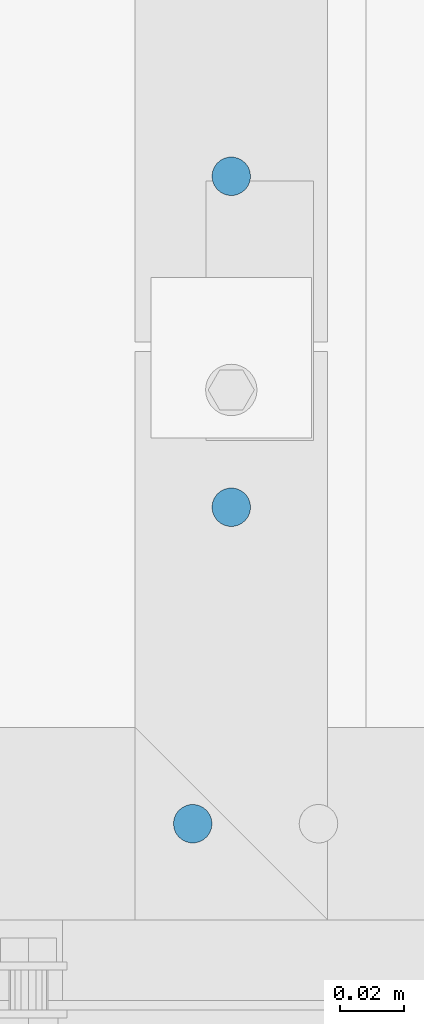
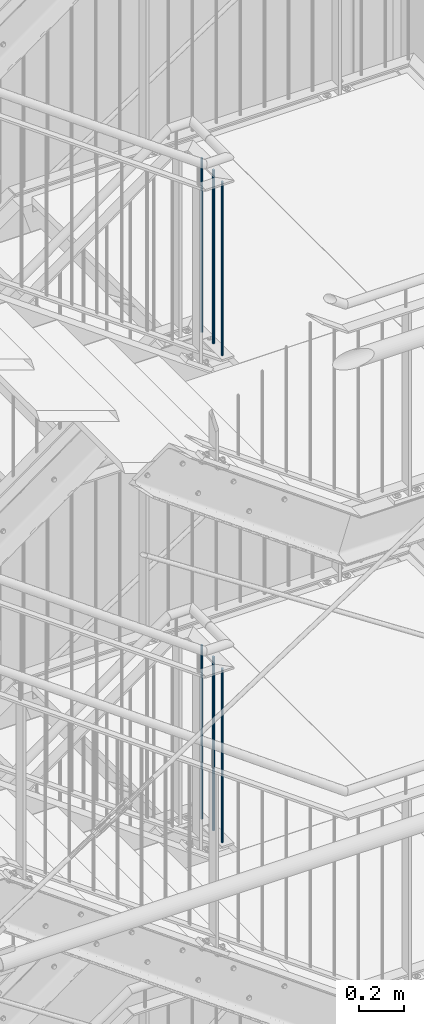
# One storey, part 62 of 831: 6 columns.
"""IFC2X3 building model written with IfcOpenShell, lengths in millimetres."""

from ifc_helpers import new_model, entity, si_unit, converted_unit, frame, origin, origin_with_axes, origin_2d, place, context, project, spatial, circle, extrude, material, element, save


model = new_model("IFC2X3")

# Units and contexts
model_context = context("Model", 3, precision=1e-09, world=origin_with_axes())
ifc_project = project(units=[si_unit("LENGTHUNIT", "METRE", prefix="MILLI"), si_unit("AREAUNIT", "SQUARE_METRE"), si_unit("VOLUMEUNIT", "CUBIC_METRE"), converted_unit("PLANEANGLEUNIT", "DEGREE", entity("IfcPlaneAngleMeasure", 0.01745329), si_unit("PLANEANGLEUNIT", "RADIAN"), dimensions=[0, 0, 0, 0, 0, 0, 0])], contexts=[model_context])

# Site, building, storey
site_placement = place(None, origin_with_axes())
site = spatial("IfcSite", under=ifc_project, at=site_placement, Name="Site", CompositionType="ELEMENT")
building_placement = place(site_placement, origin_with_axes())
building = spatial("IfcBuilding", under=site, at=building_placement, Name="Struktur 1", CompositionType="ELEMENT")
storey_placement = place(building_placement, origin_with_axes())
storey = spatial("IfcBuildingStorey", under=building, at=storey_placement, Name="Default Storey", CompositionType="ELEMENT", Elevation=0.0)

# Columns
ifc_material = material(Name="S235JR")
for number, where, z_axis, x_axis, name in (
    (1, (7152.822212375, 5791.736971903, 12274.3000003), (0.0, 0.0, 1.0), (-1.0, 0.0, 0.0), "Railing_Picket_Stair#0"),
    (2, (7164.822212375, 5890.236971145, 12274.3000003), (0.0, 0.0, 1.0), (-1.0, 0.0, 0.0), "Railing_Picket_Stair#0"),
    (3, (7164.822212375, 5993.236971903, 12274.3000003), (0.0, 0.0, 1.0), (-1.0, 0.0, 0.0), "Railing_Picket_Stair#0"),
    (4, (7152.822212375, 5791.736971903, 9644.8), (0.0, 0.0, 1.0), (-1.0, 0.0, 0.0), "Railing_Picket_Stair#0"),
    (5, (7164.822212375, 5890.236971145, 9644.8), (0.0, 0.0, 1.0), (-1.0, 0.0, 0.0), "Railing_Picket_Stair#0"),
    (6, (7164.822212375, 5993.236971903, 9644.8), (0.0, 0.0, 1.0), (-1.0, 0.0, 0.0), "Railing_Picket_Stair#0"),
):
    element("IfcColumn", number, at=place(None, frame(where, z_axis=z_axis, x_axis=x_axis)), inside=storey, material=ifc_material, Name=name, ObjectType="Railing_Picket_Stair#0", context=model_context, shape_type="SweptSolid", body=[
        extrude(circle(Radius=6.0, at=origin_2d()), origin(), (0.0, 0.0, -1.0), 938.8),
    ])

save(model, "model.ifc")
